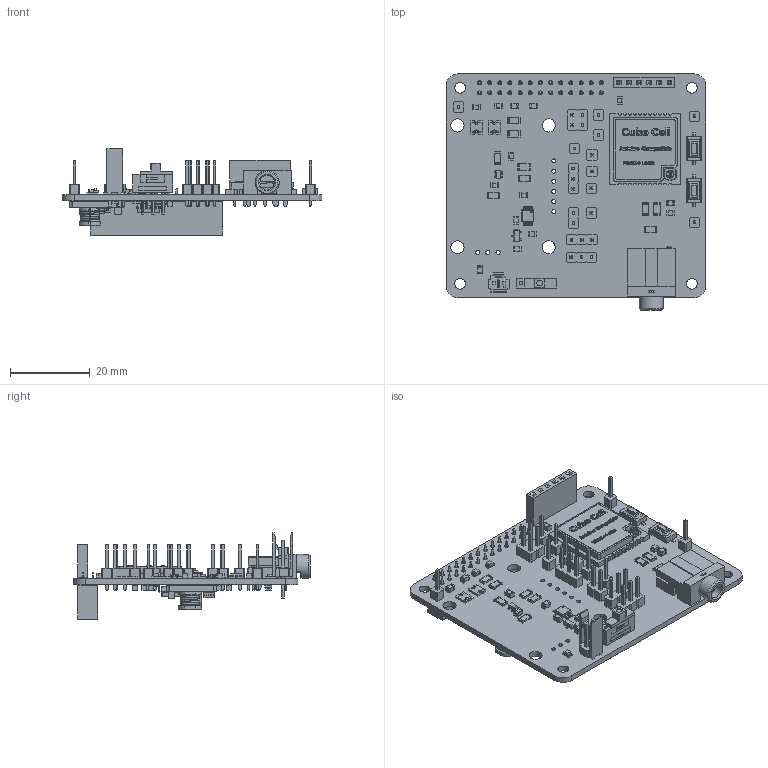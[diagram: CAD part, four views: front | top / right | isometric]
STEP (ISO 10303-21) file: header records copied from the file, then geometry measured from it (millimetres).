
FILE_DESCRIPTION(('KiCad electronic assembly'),'2;1');
FILE_NAME('kicad_Zainou.step','2025-04-09T18:30:58',('Pcbnew'),('Kicad') ,'Open CASCADE STEP processor 7.8','KiCad to STEP converter','Unknown' );
FILE_SCHEMA(('AUTOMOTIVE_DESIGN { 1 0 10303 214 1 1 1 1 }'));
Length unit declared in the file: millimetre
Products named in the file (52): kicad_Zainou 1; R_1206_3216Metric; LED_0805_2012Metric; C_0805_2012Metric; Embase_AMPMODU_HE14_Droite_2; PinHeader_1x01_P2.54mm_Vertical; SIP_1K2_EAO_Noir; Polyswitch_MICROSMD110F-2; PinSocket_1x06_P2.54mm_Vertical; MAX11100EUB+; Body; PinsArrayLR; PinHeader_1x03_P2.54mm_Vertical; HTCC-AM01v2; User Library-U.FL-R-SMT(10); Extrude001; Extrude002; Extrude; PinHeader_1x02_P2.54mm_Vertical; SOT-353_SC-70-5; Lumberg_KLBR_4; Tactile_SMD_3x6x2.5mm; SOT-23; PinHeader_2x02_P2.54mm_Vertical; PinSocket_2x13_P2.54mm_Vertical; D_SOD-123; SOIC-8_7.5x5.85mm_P1.27mm; K78xxJT-500R3; SMD_Inductor_CD54; SOLID; COMPOUND; SOT-23-6; C_1206_3216Metric; kicad_Zainou_PCB
Assembly tree (94 placements, depth 4):
  kicad_Zainou 1
    R_1206_3216Metric  x11
    LED_0805_2012Metric  x4
    C_0805_2012Metric  x17
    Embase_AMPMODU_HE14_Droite_2
    PinHeader_1x01_P2.54mm_Vertical  x10
    SIP_1K2_EAO_Noir
    Polyswitch_MICROSMD110F-2  x2
    PinSocket_1x06_P2.54mm_Vertical
    MAX11100EUB+
      Body
      PinsArrayLR
    PinHeader_1x03_P2.54mm_Vertical  x3
    HTCC-AM01v2
      Body
      User Library-U.FL-R-SMT(10)
      Extrude001
      Extrude002
      Extrude
    PinHeader_1x02_P2.54mm_Vertical
    SOT-353_SC-70-5
    Lumberg_KLBR_4
    Tactile_SMD_3x6x2.5mm  x2
    SOT-23
    PinHeader_2x02_P2.54mm_Vertical
    PinSocket_2x13_P2.54mm_Vertical
    D_SOD-123
    SOIC-8_7.5x5.85mm_P1.27mm
    K78xxJT-500R3
      SMD_Inductor_CD54
        SOLID
        SOLID
        SOLID
        SOLID
        SOLID
        SOLID
        SOLID
        SOLID
        SOLID
        SOLID
        SOLID
        SOLID
        SOLID
        COMPOUND
      D_SOD-123
        SOLID
      SOT-23-6
        SOLID
      C_1206_3216Metric  x2
        SOLID
      SOLID
    kicad_Zainou_PCB
Bounding box: 65 x 59.12 x 21.58 mm (x, y, z)
Volume: 9795.2 mm3; surface area: 16126 mm2
Topology: 135 solids, 135 shells, 5026 faces, 12975 edges, 8389 vertices
Faces by surface type: plane 3547, cylinder 814, extrusion 445, bspline 183, cone 13, torus 11, sphere 8, revolution 5
Full cylindrical faces by diameter (mm): 0.368 x1, 0.43 x4, 0.8 x3, 1 x59, 1.016 x9, 2.7 x4, 3.302 x4, 3.6 x2, 4.02 x1, 6 x1
Entity records: 132087 total; most frequent: CARTESIAN_POINT 23853, ORIENTED_EDGE 19009, DIRECTION 16122, EDGE_CURVE 9505, VECTOR 7775, LINE 7330, VERTEX_POINT 6149, AXIS2_PLACEMENT_3D 4171
